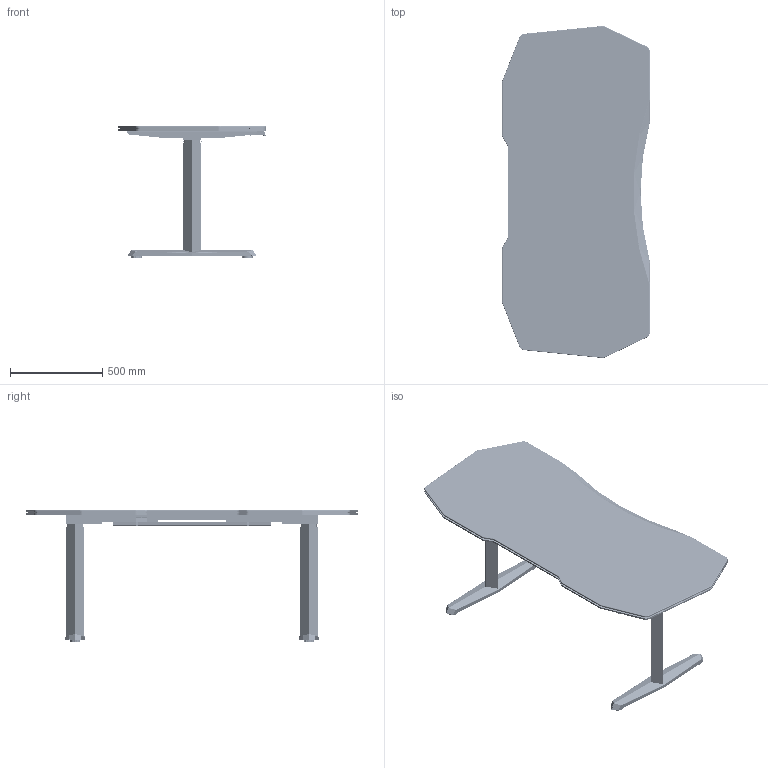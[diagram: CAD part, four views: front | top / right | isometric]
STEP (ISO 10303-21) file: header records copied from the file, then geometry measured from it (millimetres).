
FILE_DESCRIPTION (( 'STEP AP203' ), '1' );
FILE_NAME ('AK2YJYT-TYZF2-T661.STEP', '2023-12-27T02:02:06', ( '' ), ( '' ), 'SwSTEP 2.0', 'SolidWorks 2020', '' );
FILE_SCHEMA (( 'CONFIG_CONTROL_DESIGN' ));
Length unit declared in the file: millimetre
Products named in the file (52): 1.23.056.X P-YFHT01_70F3; 郈磁踢蟀諉璃; _X2_4E0B7BA17EC44EF6_X0_; AK-ZHHL01YJ-500A-4-V2; spring lock washers--normal type gb11111_GB_FASTENER_WASHER_SW 4; 1_10_067_X_AK-ZYS02YD-700; AK-ZF3-SG01-557_65-3-V2; 1.13.008.X AK-ZF3-SG01-557_65-V6; 狟蟀諉璃; 1_27_142_01WP_WP-H20-BASE-01_WP_ASM; _X2_570689D2_X0_22; ZB1800X800X25; AK-HB-8_AllCATPart; 2誹佪裝郪璃; AK-ZHHL02YJ-TM500A-V6_ASM; 萇噥袤虯1; 18000_ASM; 佪裝帣杶; AK-ZHHL02J-990B_ZHJ__ASM; AK-ZHHL02YJ-TM500A-1__X2_5DE64F; AK-ZHHL01YJ-M500A-2-V2; 0形圈; 奻裔爾璃; plain washers-n series-grade a gb111_GB_FASTENER_WASHER_PWNA 4; 1.16.260.X AK-KZXC01-855; 1.50.001.01 M8x60-14__X2_811A57AB_X0_.1（脚垫）; hexagon socket button head screws gb1212_GB_SOCKET_TYPE7 M4X10-N; AK-ZHHL02J-990B; 萇噥袤華褐; AK2YJYT-TYZF2-M02_1_ASM; 侐芛佪裝蹟譫; 【临时】1.96.008.7110X AK-TYZF3H-SG01-548_65-V2_上管(双电机正装方管三节)-V2; AK-ZHHL02YJ-TM500A-5__X2_53F34F; 1.96.008.2231X AK-YDZF2-XG01-580BZ03_70; _2_92_103_01WP_WP-0001_ASM; AK2YJYT-TYZF2-T661; AK-YDZF2-XG01-580BZ03_70-1; AK-YZF2-XG01-616_70-2; 1_27_141_01WP_WP-H20-CAP-01_WP-; 1_01_520_X_AK-ZHHL02YJ-TM500A_ASM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
Assembly tree (57 placements, depth 8):
  AK2YJYT-TYZF2-T661
    AK2YJYT-TYZF2-M02_1_ASM
      PRODUCT03_ASM  x2
        1_01_520_X_AK-ZHHL02YJ-TM500A_ASM
          AK-ZHHL02YJ-TM500A-V6_ASM
            AK-ZHHL02YJ-TM500A-5__X2_53F34F
            AK-ZHHL01YJ-M500A-3
            AK-ZHHL01YJ-500A-4-V2
            AK-ZHHL01YJ-M500A-2-V2
            AK-ZHHL02YJ-TM500A-1__X2_5DE64F
          1_27_068_02_P-HLHT01  x2
        1_10_067_X_AK-ZYS02YD-700
        萇噥袤華褐
          狟蟀諉璃
          奻裔爾璃
        萇噥袤虯1
          1.96.008.0788X AK-YZF2-SG01-LSDJH-606-60
            AK-YZF2-SG01-LSDJH-606-60-1
            【临时】1.96.008.7110X AK-TYZF3H-SG01-548_65-V2_上管(双电机正装方管三节)-V2
              1.13.008.X AK-ZF3-SG01-557_65-V6
                AK-ZF3-JQB01-V2
                AK-ZF3-SG01-557_65-3-V2
                AK-HB-8_AllCATPart
          _X2_4E0B7BA17EC44EF6_X0_
            1.96.008.2231X AK-YDZF2-XG01-580BZ03_70
              AK-YDZF2-XG01-580BZ03_70-1
              AK-YZF2-XG01-616_70-2
          2誹佪裝郪璃
            源臏奪
            侐芛佪裝蹟譫
            郈磁踢蟀諉璃
            佪裝帣杶
            0形圈
            hexagon socket button head screws gb1212_GB_SOCKET_TYPE7 M4X10-N
            spring lock washers--normal type gb11111_GB_FASTENER_WASHER_SW 4
            plain washers-n series-grade a gb111_GB_FASTENER_WASHER_PWNA 4
            萇儂郪璃
        1.50.001.01 M8x60-14__X2_811A57AB_X0_.1（脚垫）
      AK-ZHHL02J-990B_ZHJ__ASM
        AK-ZHHL02J-990B  x2
    ZB1800X800X25
    _2_92_103_01WP_WP-0001_ASM
      18000_ASM
        1_27_142_01WP_WP-H20-BASE-01_WP_ASM
          _X2_570689D2_X0_22
          200
        1_27_141_01WP_WP-H20-CAP-01_WP-
    00
    1_20_019_X_AK-SPQGDJ-01
    1.23.056.X P-YFHT01_70F3  x2
    1.23.001.03 P-DJHG03殏俔萇儂碟裔  x2
    1.16.260.X AK-KZXC01-855
Bounding box: 800.23 x 1798.6 x 714.43 mm (x, y, z)
Volume: 36221194.5 mm3; surface area: 6555277.3 mm2
Topology: 104 solids, 109 shells, 7674 faces, 20919 edges, 13549 vertices
Faces by surface type: plane 3585, cylinder 3007, bspline 825, cone 247, torus 8, sphere 2
Entity records: 187407 total; most frequent: CARTESIAN_POINT 77204, ORIENTED_EDGE 23374, DIRECTION 19602, EDGE_CURVE 11703, VERTEX_POINT 7606, LINE 6954, VECTOR 6954, AXIS2_PLACEMENT_3D 6324
